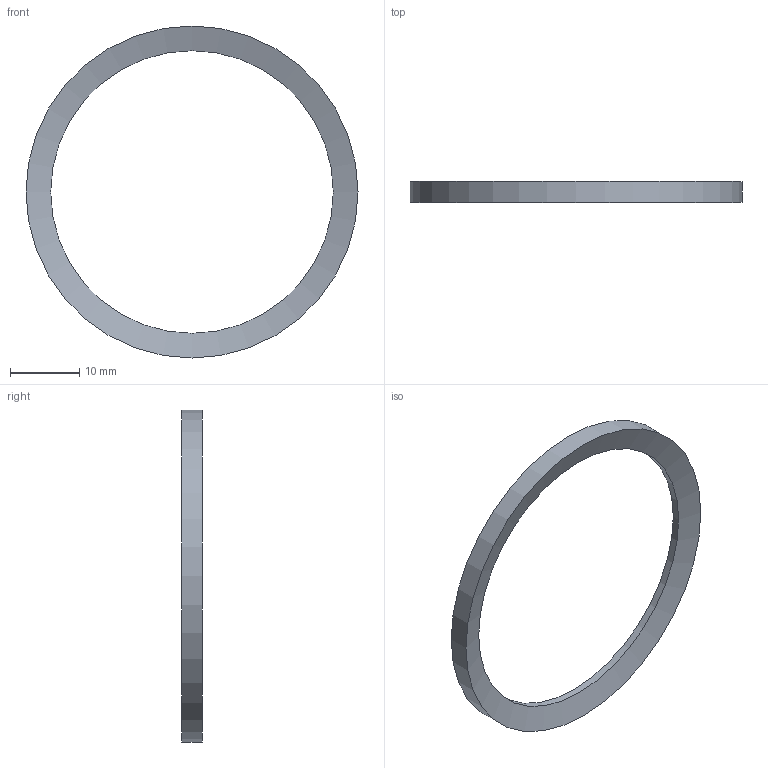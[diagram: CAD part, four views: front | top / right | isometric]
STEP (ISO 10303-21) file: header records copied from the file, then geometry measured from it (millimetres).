
FILE_DESCRIPTION(/* description */ (''),/* implementation_level */ '2;1');
FILE_NAME(/* name */ 'Z:\Geberit\Export\NewStep\360782.stp',/* time_stamp */ '2014-04-01T21:02:10+02:00',/* author */ ('nelson'),/* organization */ (''),/* preprocessor_version */ 'ST-DEVELOPER v15.2',/* originating_system */ 'Autodesk Inventor 2014',/* authorisation */ '');
FILE_SCHEMA (('AUTOMOTIVE_DESIGN { 1 0 10303 214 3 1 1 }'));
Length unit declared in the file: millimetre
Products named in the file (1): 360782
Bounding box: 47.8 x 3 x 47.8 mm (x, y, z)
Volume: 1023.6 mm3; surface area: 1612.7 mm2
Topology: 1 solids, 1 shells, 4 faces, 8 edges, 4 vertices
Faces by surface type: cylinder 2, cone 2
Full cylindrical faces by diameter (mm): 40.7 x1, 47.8 x1
Entity records: 113 total; most frequent: DIRECTION 18, CARTESIAN_POINT 13, AXIS2_PLACEMENT_3D 9, EDGE_LOOP 8, ORIENTED_EDGE 8, STYLED_ITEM 5, FACE_BOUND 4, FACE_OUTER_BOUND 4
